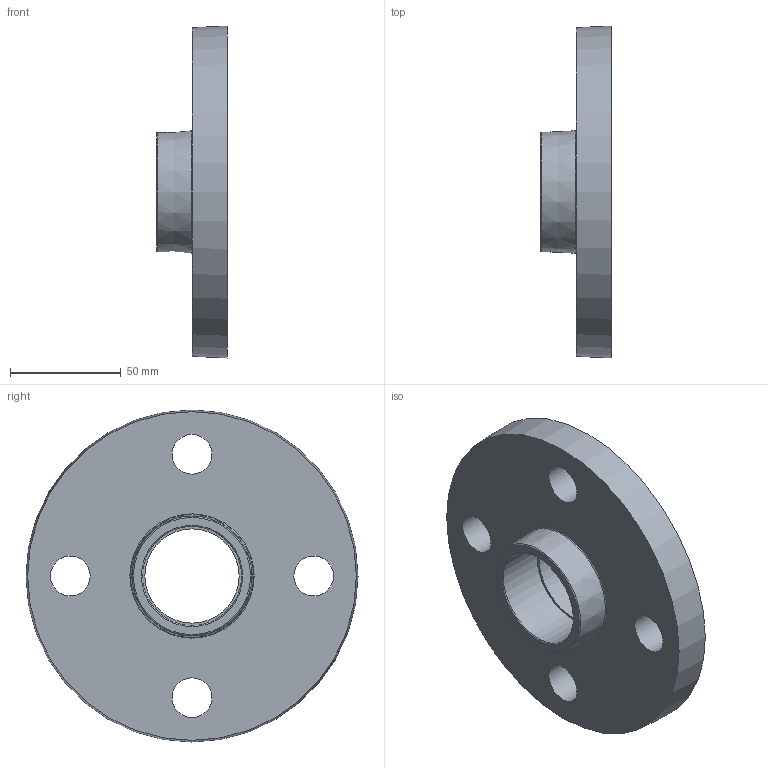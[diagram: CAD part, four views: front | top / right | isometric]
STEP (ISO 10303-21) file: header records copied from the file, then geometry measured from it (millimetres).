
FILE_DESCRIPTION(/* description */ ('PLASSON THR. FIXED FLANGE PVC 1.1/2"'),/* implementation_level */ '2;1');
FILE_NAME(/* name */ 'C:\Dropbox\KIMPROJECTS-Inventor\99-16-3568-Processing\PVC Catalog 2017\059201\059201015.ipt.stp',/* time_stamp */ '2017-12-07T16:07:29+02:00',/* author */ ('KIM'),/* organization */ (''),/* preprocessor_version */ 'ST-DEVELOPER v15.6',/* originating_system */ 'Autodesk Inventor 2015',/* authorisation */ '');
FILE_SCHEMA (('AUTOMOTIVE_DESIGN { 1 0 10303 214 3 1 1 }'));
Length unit declared in the file: millimetre
Products named in the file (1): 059201015
Bounding box: 32 x 150 x 150 mm (x, y, z)
Volume: 251935.8 mm3; surface area: 48452.9 mm2
Topology: 1 solids, 1 shells, 28 faces, 50 edges, 32 vertices
Faces by surface type: cylinder 12, plane 10, torus 4, cone 2
Full cylindrical faces by diameter (mm): 18 x4, 42.603 x1, 44.845 x1, 45 x1, 46.5 x1, 48 x1, 49.5 x1, 51 x1, 52.5 x1
Entity records: 648 total; most frequent: DIRECTION 122, CARTESIAN_POINT 93, EDGE_LOOP 64, ORIENTED_EDGE 64, AXIS2_PLACEMENT_3D 61, FACE_BOUND 36, CIRCLE 32, VERTEX_POINT 32
